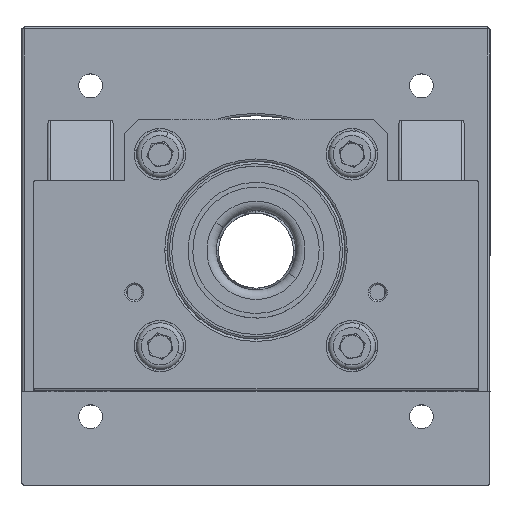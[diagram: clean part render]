
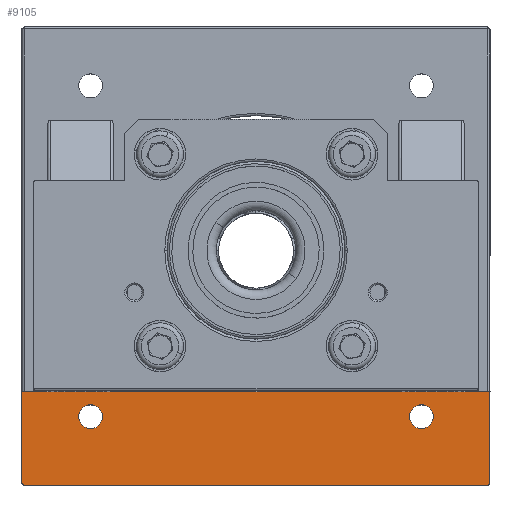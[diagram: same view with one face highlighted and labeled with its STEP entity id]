
A CAD part, top view. The second image highlights one B-rep face of the part: STEP entity #9105.
In plain terms, the highlighted planar face has unit normal (0, 0, 1).
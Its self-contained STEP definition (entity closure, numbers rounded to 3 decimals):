
#124 = ORIENTED_EDGE ( 'NONE', *, *, #3311, .F. ) ;
#489 = CARTESIAN_POINT ( 'NONE',  ( -50., -30., -115. ) ) ;
#575 = DIRECTION ( 'NONE',  ( -1., 0., 0. ) ) ;
#594 = CARTESIAN_POINT ( 'NONE',  ( 49.5, -50., -115. ) ) ;
#621 = DIRECTION ( 'NONE',  ( 1., 0., 0. ) ) ;
#763 = CIRCLE ( 'NONE', #8389, 2.55 ) ;
#790 = ORIENTED_EDGE ( 'NONE', *, *, #5422, .F. ) ;
#957 = CARTESIAN_POINT ( 'NONE',  ( 50., -30., -115. ) ) ;
#1252 = CARTESIAN_POINT ( 'NONE',  ( 50., -30., -115. ) ) ;
#1859 = DIRECTION ( 'NONE',  ( 0., 1., 0. ) ) ;
#1909 = FACE_BOUND ( 'NONE', #6520, .T. ) ;
#2031 = VERTEX_POINT ( 'NONE', #11106 ) ;
#2164 = CIRCLE ( 'NONE', #8554, 2.55 ) ;
#2209 = EDGE_CURVE ( 'NONE', #8192, #4365, #4795, .T. ) ;
#2405 = EDGE_CURVE ( 'NONE', #2031, #10338, #763, .T. ) ;
#2469 = VERTEX_POINT ( 'NONE', #4116 ) ;
#2539 = DIRECTION ( 'NONE',  ( -1., 0., 0. ) ) ;
#2713 = LINE ( 'NONE', #3014, #8970 ) ;
#2781 = DIRECTION ( 'NONE',  ( 0., 0., 1. ) ) ;
#2814 = CARTESIAN_POINT ( 'NONE',  ( -35.355, -35.355, -115. ) ) ;
#3014 = CARTESIAN_POINT ( 'NONE',  ( -50., -30., -115. ) ) ;
#3194 = ORIENTED_EDGE ( 'NONE', *, *, #4458, .T. ) ;
#3311 = EDGE_CURVE ( 'NONE', #2469, #4800, #5960, .T. ) ;
#3565 = PLANE ( 'NONE',  #5779 ) ;
#3645 = CARTESIAN_POINT ( 'NONE',  ( 49.5, -49.5, -115. ) ) ;
#3773 = CIRCLE ( 'NONE', #6002, 2.55 ) ;
#3947 = LINE ( 'NONE', #957, #6217 ) ;
#3959 = VERTEX_POINT ( 'NONE', #5985 ) ;
#4034 = CARTESIAN_POINT ( 'NONE',  ( 37.905, -35.355, -115. ) ) ;
#4109 = VERTEX_POINT ( 'NONE', #4129 ) ;
#4116 = CARTESIAN_POINT ( 'NONE',  ( -32.805, -35.355, -115. ) ) ;
#4129 = CARTESIAN_POINT ( 'NONE',  ( -50., -49.5, -115. ) ) ;
#4365 = VERTEX_POINT ( 'NONE', #594 ) ;
#4446 = CARTESIAN_POINT ( 'NONE',  ( -50., -30., -115. ) ) ;
#4458 = EDGE_CURVE ( 'NONE', #4109, #8192, #7277, .T. ) ;
#4542 = DIRECTION ( 'NONE',  ( -1., 0., 0. ) ) ;
#4795 = LINE ( 'NONE', #5820, #6784 ) ;
#4800 = VERTEX_POINT ( 'NONE', #6016 ) ;
#4816 = ORIENTED_EDGE ( 'NONE', *, *, #10002, .F. ) ;
#5047 = AXIS2_PLACEMENT_3D ( 'NONE', #3645, #9607, #4542 ) ;
#5193 = ORIENTED_EDGE ( 'NONE', *, *, #2405, .F. ) ;
#5264 = DIRECTION ( 'NONE',  ( -1., 0., 0. ) ) ;
#5293 = DIRECTION ( 'NONE',  ( 0., 0., 1. ) ) ;
#5336 = CARTESIAN_POINT ( 'NONE',  ( 35.355, -35.355, -115. ) ) ;
#5422 = EDGE_CURVE ( 'NONE', #4800, #2469, #2164, .T. ) ;
#5627 = DIRECTION ( 'NONE',  ( 0., 1., 0. ) ) ;
#5662 = DIRECTION ( 'NONE',  ( 1., 0., 0. ) ) ;
#5779 = AXIS2_PLACEMENT_3D ( 'NONE', #11227, #11254, #6156 ) ;
#5820 = CARTESIAN_POINT ( 'NONE',  ( -50., -50., -115. ) ) ;
#5886 = DIRECTION ( 'NONE',  ( 0., 0., 1. ) ) ;
#5960 = CIRCLE ( 'NONE', #8116, 2.55 ) ;
#5985 = CARTESIAN_POINT ( 'NONE',  ( 50., -49.5, -115. ) ) ;
#6002 = AXIS2_PLACEMENT_3D ( 'NONE', #10979, #5886, #575 ) ;
#6016 = CARTESIAN_POINT ( 'NONE',  ( -37.905, -35.355, -115. ) ) ;
#6156 = DIRECTION ( 'NONE',  ( -1., 0., 0. ) ) ;
#6217 = VECTOR ( 'NONE', #1859, 1000. ) ;
#6256 = EDGE_LOOP ( 'NONE', ( #3194, #9395, #7453, #9787, #7430, #4816 ) ) ;
#6520 = EDGE_LOOP ( 'NONE', ( #790, #124 ) ) ;
#6669 = EDGE_LOOP ( 'NONE', ( #5193, #7790 ) ) ;
#6784 = VECTOR ( 'NONE', #5662, 1000. ) ;
#6831 = EDGE_CURVE ( 'NONE', #9282, #8888, #9487, .T. ) ;
#6871 = EDGE_CURVE ( 'NONE', #4365, #3959, #10983, .T. ) ;
#7277 = CIRCLE ( 'NONE', #9427, 0.5 ) ;
#7430 = ORIENTED_EDGE ( 'NONE', *, *, #6831, .F. ) ;
#7453 = ORIENTED_EDGE ( 'NONE', *, *, #6871, .T. ) ;
#7574 = DIRECTION ( 'NONE',  ( -1., 0., 0. ) ) ;
#7640 = DIRECTION ( 'NONE',  ( 0., 0., 1. ) ) ;
#7790 = ORIENTED_EDGE ( 'NONE', *, *, #10377, .F. ) ;
#7828 = CARTESIAN_POINT ( 'NONE',  ( -49.5, -50., -115. ) ) ;
#7890 = CARTESIAN_POINT ( 'NONE',  ( -49.5, -49.5, -115. ) ) ;
#8116 = AXIS2_PLACEMENT_3D ( 'NONE', #8398, #8370, #8331 ) ;
#8192 = VERTEX_POINT ( 'NONE', #7828 ) ;
#8331 = DIRECTION ( 'NONE',  ( -1., 0., 0. ) ) ;
#8370 = DIRECTION ( 'NONE',  ( 0., 0., 1. ) ) ;
#8389 = AXIS2_PLACEMENT_3D ( 'NONE', #5336, #5293, #5264 ) ;
#8398 = CARTESIAN_POINT ( 'NONE',  ( -35.355, -35.355, -115. ) ) ;
#8454 = FACE_OUTER_BOUND ( 'NONE', #6256, .T. ) ;
#8554 = AXIS2_PLACEMENT_3D ( 'NONE', #2814, #2781, #2539 ) ;
#8675 = VECTOR ( 'NONE', #621, 1000. ) ;
#8888 = VERTEX_POINT ( 'NONE', #1252 ) ;
#8970 = VECTOR ( 'NONE', #5627, 1000. ) ;
#9105 = ADVANCED_FACE ( 'NONE', ( #8454, #10745, #1909 ), #3565, .F. ) ;
#9138 = EDGE_CURVE ( 'NONE', #3959, #8888, #3947, .T. ) ;
#9282 = VERTEX_POINT ( 'NONE', #4446 ) ;
#9395 = ORIENTED_EDGE ( 'NONE', *, *, #2209, .T. ) ;
#9427 = AXIS2_PLACEMENT_3D ( 'NONE', #7890, #7640, #7574 ) ;
#9487 = LINE ( 'NONE', #489, #8675 ) ;
#9607 = DIRECTION ( 'NONE',  ( 0., 0., 1. ) ) ;
#9787 = ORIENTED_EDGE ( 'NONE', *, *, #9138, .T. ) ;
#10002 = EDGE_CURVE ( 'NONE', #4109, #9282, #2713, .T. ) ;
#10338 = VERTEX_POINT ( 'NONE', #4034 ) ;
#10377 = EDGE_CURVE ( 'NONE', #10338, #2031, #3773, .T. ) ;
#10745 = FACE_BOUND ( 'NONE', #6669, .T. ) ;
#10979 = CARTESIAN_POINT ( 'NONE',  ( 35.355, -35.355, -115. ) ) ;
#10983 = CIRCLE ( 'NONE', #5047, 0.5 ) ;
#11106 = CARTESIAN_POINT ( 'NONE',  ( 32.805, -35.355, -115. ) ) ;
#11227 = CARTESIAN_POINT ( 'NONE',  ( -50., -30., -115. ) ) ;
#11254 = DIRECTION ( 'NONE',  ( 0., 0., -1. ) ) ;
